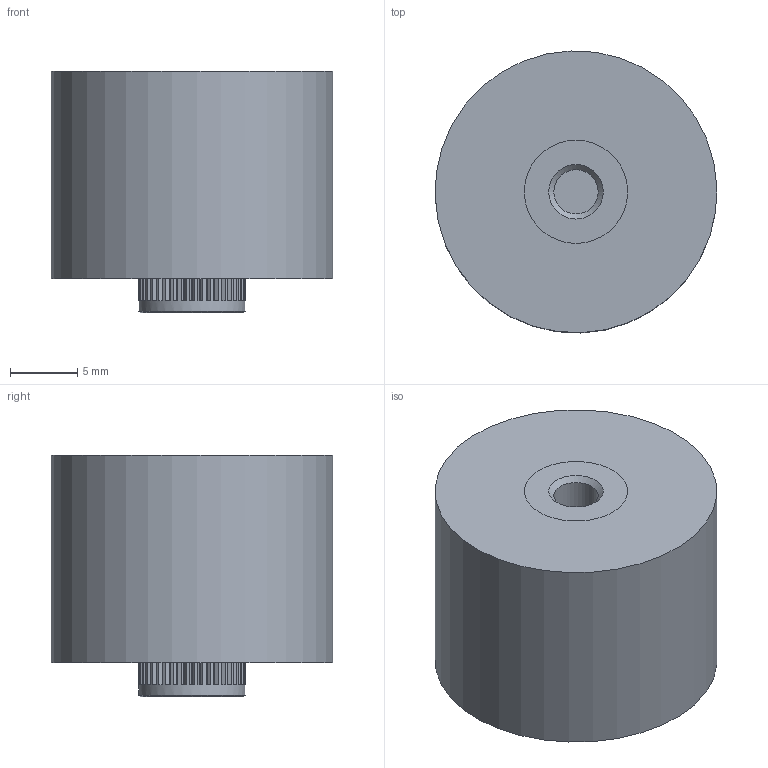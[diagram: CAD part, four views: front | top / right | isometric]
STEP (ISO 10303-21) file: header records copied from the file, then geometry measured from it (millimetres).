
FILE_DESCRIPTION((''),'2;1');
FILE_NAME('I:\Marketing\M6t1\M6T1 - Internal\Drawings\Werk 3\Finished product\Ceramite\Upload for homepage\715\715C10KTT56.stp','2013-06-07T13:21:31',('sherden'),(''),'Autodesk Inventor 2013','Autodesk Inventor 2013','');
FILE_SCHEMA(('CONFIG_CONTROL_DESIGN'));
Length unit declared in the file: millimetre
Products named in the file (1): 715C10KTT56
Bounding box: 20.99 x 20.99 x 18 mm (x, y, z)
Volume: 5391.6 mm3; surface area: 1893 mm2
Topology: 1 solids, 1 shells, 173 faces, 499 edges, 332 vertices
Faces by surface type: plane 166, cylinder 4, cone 3
Full cylindrical faces by diameter (mm): 3.302 x2, 7.95 x1, 21 x1
Entity records: 5824 total; most frequent: CARTESIAN_POINT 996, ORIENTED_EDGE 982, DIRECTION 930, EDGE_CURVE 491, VECTOR 400, LINE 400, VERTEX_POINT 331, AXIS2_PLACEMENT_3D 265
